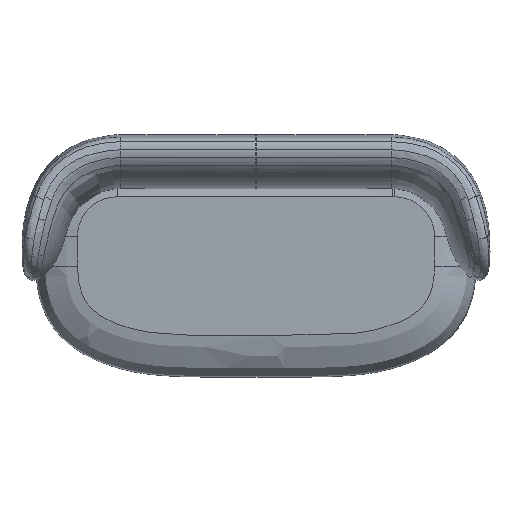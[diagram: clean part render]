
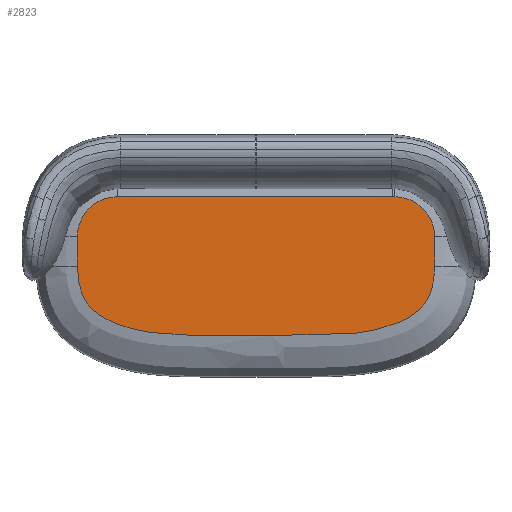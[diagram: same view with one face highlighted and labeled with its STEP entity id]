
A CAD part, top view. The second image highlights one B-rep face of the part: STEP entity #2823.
In plain terms, the highlighted planar face has unit normal (0, 0, 1).
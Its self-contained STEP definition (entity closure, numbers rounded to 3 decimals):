
#2012=B_SPLINE_CURVE_WITH_KNOTS('',3,(#215691,#215692,#215693,#215694),
 .UNSPECIFIED.,.F.,.F.,(4,4),(-11.853,0.),.UNSPECIFIED.);
#2016=B_SPLINE_CURVE_WITH_KNOTS('',3,(#215736,#215737,#215738,#215739,#215740,
#215741,#215742,#215743,#215744,#215745,#215746),.UNSPECIFIED.,.F.,.F.,
(4,1,1,1,1,1,1,1,4),(-549.779,-481.725,-412.334,
-342.943,-274.889,-206.836,-137.445,
-68.054,0.),.UNSPECIFIED.);
#2019=B_SPLINE_CURVE_WITH_KNOTS('',3,(#215766,#215767,#215768,#215769),
 .UNSPECIFIED.,.F.,.F.,(4,4),(-131.191,0.),.UNSPECIFIED.);
#2022=B_SPLINE_CURVE_WITH_KNOTS('',3,(#215830,#215831,#215832,#215833,#215834,
#215835,#215836,#215837,#215838,#215839,#215840,#215841,#215842,#215843,
#215844,#215845,#215846,#215847,#215848,#215849,#215850,#215851,#215852,
#215853,#215854,#215855,#215856,#215857,#215858,#215859,#215860,#215861,
#215862,#215863,#215864,#215865,#215866,#215867,#215868,#215869,#215870,
#215871,#215872,#215873,#215874),.UNSPECIFIED.,.F.,.F.,(4,1,1,1,1,1,1,1,
1,1,1,1,1,1,1,1,1,1,1,1,1,1,1,1,1,1,1,1,1,1,1,1,1,1,1,1,1,1,1,1,1,1,4),
(-2457.531,-2406.307,-2358.914,-2314.827,
-2273.524,-2234.508,-2197.317,-2161.54,
-2126.832,-2092.921,-2059.613,-1994.399,
-1931.033,-1870.222,-1812.435,-1755.042,
-1694.567,-1627.575,-1550.722,-1460.755,
-1354.488,-1228.765,-1103.043,-996.776,
-906.809,-829.956,-762.964,-702.489,
-645.096,-587.308,-526.498,-463.132,
-397.918,-364.61,-330.699,-295.991,
-260.214,-223.022,-184.007,-142.704,
-98.616,-51.224,0.),.UNSPECIFIED.);
#2025=B_SPLINE_CURVE_WITH_KNOTS('',3,(#215894,#215895,#215896,#215897),
 .UNSPECIFIED.,.F.,.F.,(4,4),(-131.192,0.),.UNSPECIFIED.);
#2028=B_SPLINE_CURVE_WITH_KNOTS('',3,(#215924,#215925,#215926,#215927,#215928,
#215929,#215930,#215931,#215932,#215933,#215934),.UNSPECIFIED.,.F.,.F.,
(4,1,1,1,1,1,1,1,4),(-549.777,-485.734,-417.842,
-347.118,-274.889,-202.659,-131.935,-64.044,
0.),.UNSPECIFIED.);
#2030=B_SPLINE_CURVE_WITH_KNOTS('',3,(#215939,#215940,#215941,#215942),
 .UNSPECIFIED.,.F.,.F.,(4,4),(-1214.687,0.),.UNSPECIFIED.);
#2823=ADVANCED_FACE('',(#3407),#11523,.T.);
#3407=FACE_OUTER_BOUND('',#4003,.T.);
#4003=EDGE_LOOP('',(#7698,#7699,#7700,#7701,#7702,#7703,#7704));
#7698=ORIENTED_EDGE('',*,*,#9737,.T.);
#7699=ORIENTED_EDGE('',*,*,#9755,.T.);
#7700=ORIENTED_EDGE('',*,*,#9753,.T.);
#7701=ORIENTED_EDGE('',*,*,#9750,.T.);
#7702=ORIENTED_EDGE('',*,*,#9747,.T.);
#7703=ORIENTED_EDGE('',*,*,#9744,.T.);
#7704=ORIENTED_EDGE('',*,*,#9741,.T.);
#9737=EDGE_CURVE('',#11454,#11455,#2012,.T.);
#9741=EDGE_CURVE('',#11457,#11454,#2016,.T.);
#9744=EDGE_CURVE('',#11459,#11457,#2019,.T.);
#9747=EDGE_CURVE('',#11461,#11459,#2022,.T.);
#9750=EDGE_CURVE('',#11463,#11461,#2025,.T.);
#9753=EDGE_CURVE('',#11465,#11463,#2028,.T.);
#9755=EDGE_CURVE('',#11455,#11465,#2030,.T.);
#11454=VERTEX_POINT('',#215660);
#11455=VERTEX_POINT('',#215661);
#11457=VERTEX_POINT('',#215663);
#11459=VERTEX_POINT('',#215665);
#11461=VERTEX_POINT('',#215667);
#11463=VERTEX_POINT('',#215669);
#11465=VERTEX_POINT('',#215671);
#11523=PLANE('',#11765);
#11765=AXIS2_PLACEMENT_3D('',#215657,#11869,$);
#11869=DIRECTION('',(0.,0.,1.));
#215657=CARTESIAN_POINT('',(3292.103,-550.83,340.));
#215660=CARTESIAN_POINT('',(4709.664,68.19,340.));
#215661=CARTESIAN_POINT('',(4697.812,68.19,340.));
#215663=CARTESIAN_POINT('',(4884.915,-107.06,340.));
#215665=CARTESIAN_POINT('',(4884.914,-238.251,340.));
#215667=CARTESIAN_POINT('',(3307.874,-238.251,340.));
#215669=CARTESIAN_POINT('',(3307.874,-107.06,340.));
#215671=CARTESIAN_POINT('',(3483.125,68.19,340.));
#215691=CARTESIAN_POINT('',(4709.664,68.19,340.));
#215692=CARTESIAN_POINT('',(4705.714,68.19,340.));
#215693=CARTESIAN_POINT('',(4701.763,68.19,340.));
#215694=CARTESIAN_POINT('',(4697.812,68.19,340.));
#215736=CARTESIAN_POINT('',(4884.915,-107.06,340.));
#215737=CARTESIAN_POINT('',(4884.916,-95.701,340.));
#215738=CARTESIAN_POINT('',(4882.677,-72.762,340.));
#215739=CARTESIAN_POINT('',(4872.639,-39.554,340.));
#215740=CARTESIAN_POINT('',(4856.256,-8.974,340.));
#215741=CARTESIAN_POINT('',(4834.368,17.644,340.));
#215742=CARTESIAN_POINT('',(4807.75,39.532,340.));
#215743=CARTESIAN_POINT('',(4777.17,55.915,340.));
#215744=CARTESIAN_POINT('',(4743.963,65.953,340.));
#215745=CARTESIAN_POINT('',(4721.023,68.191,340.));
#215746=CARTESIAN_POINT('',(4709.664,68.19,340.));
#215766=CARTESIAN_POINT('',(4884.914,-238.251,340.));
#215767=CARTESIAN_POINT('',(4884.914,-194.521,340.));
#215768=CARTESIAN_POINT('',(4884.915,-150.79,340.));
#215769=CARTESIAN_POINT('',(4884.915,-107.06,340.));
#215830=CARTESIAN_POINT('',(3307.874,-238.251,340.));
#215831=CARTESIAN_POINT('',(3307.874,-250.979,340.));
#215832=CARTESIAN_POINT('',(3308.792,-274.792,340.));
#215833=CARTESIAN_POINT('',(3312.758,-306.747,340.));
#215834=CARTESIAN_POINT('',(3318.691,-333.925,340.));
#215835=CARTESIAN_POINT('',(3326.104,-356.934,340.));
#215836=CARTESIAN_POINT('',(3334.662,-376.522,340.));
#215837=CARTESIAN_POINT('',(3344.218,-393.466,340.));
#215838=CARTESIAN_POINT('',(3354.805,-408.485,340.));
#215839=CARTESIAN_POINT('',(3366.591,-422.156,340.));
#215840=CARTESIAN_POINT('',(3379.777,-434.862,340.));
#215841=CARTESIAN_POINT('',(3399.276,-450.677,340.));
#215842=CARTESIAN_POINT('',(3427.788,-468.84,340.));
#215843=CARTESIAN_POINT('',(3467.821,-487.861,340.));
#215844=CARTESIAN_POINT('',(3513.106,-504.39,340.));
#215845=CARTESIAN_POINT('',(3558.484,-517.778,340.));
#215846=CARTESIAN_POINT('',(3602.519,-527.326,340.));
#215847=CARTESIAN_POINT('',(3652.016,-534.478,340.));
#215848=CARTESIAN_POINT('',(3711.246,-539.499,340.));
#215849=CARTESIAN_POINT('',(3783.539,-542.63,340.));
#215850=CARTESIAN_POINT('',(3871.431,-544.204,340.));
#215851=CARTESIAN_POINT('',(3977.309,-544.708,340.));
#215852=CARTESIAN_POINT('',(4096.394,-544.686,340.));
#215853=CARTESIAN_POINT('',(4215.483,-544.708,340.));
#215854=CARTESIAN_POINT('',(4321.36,-544.204,340.));
#215855=CARTESIAN_POINT('',(4409.249,-542.63,340.));
#215856=CARTESIAN_POINT('',(4481.544,-539.499,340.));
#215857=CARTESIAN_POINT('',(4540.772,-534.478,340.));
#215858=CARTESIAN_POINT('',(4590.272,-527.326,340.));
#215859=CARTESIAN_POINT('',(4634.309,-517.777,340.));
#215860=CARTESIAN_POINT('',(4679.682,-504.39,340.));
#215861=CARTESIAN_POINT('',(4724.972,-487.859,340.));
#215862=CARTESIAN_POINT('',(4764.998,-468.841,340.));
#215863=CARTESIAN_POINT('',(4793.516,-450.675,340.));
#215864=CARTESIAN_POINT('',(4813.011,-434.862,340.));
#215865=CARTESIAN_POINT('',(4826.201,-422.153,340.));
#215866=CARTESIAN_POINT('',(4837.982,-408.486,340.));
#215867=CARTESIAN_POINT('',(4848.572,-393.465,340.));
#215868=CARTESIAN_POINT('',(4858.127,-376.52,340.));
#215869=CARTESIAN_POINT('',(4866.685,-356.933,340.));
#215870=CARTESIAN_POINT('',(4874.099,-333.92,340.));
#215871=CARTESIAN_POINT('',(4880.031,-306.75,340.));
#215872=CARTESIAN_POINT('',(4883.997,-274.787,340.));
#215873=CARTESIAN_POINT('',(4884.915,-250.981,340.));
#215874=CARTESIAN_POINT('',(4884.914,-238.251,340.));
#215894=CARTESIAN_POINT('',(3307.874,-107.06,340.));
#215895=CARTESIAN_POINT('',(3307.874,-150.79,340.));
#215896=CARTESIAN_POINT('',(3307.874,-194.521,340.));
#215897=CARTESIAN_POINT('',(3307.874,-238.251,340.));
#215924=CARTESIAN_POINT('',(3483.125,68.19,340.));
#215925=CARTESIAN_POINT('',(3472.435,68.191,340.));
#215926=CARTESIAN_POINT('',(3450.415,66.17,340.));
#215927=CARTESIAN_POINT('',(3417.754,56.78,340.));
#215928=CARTESIAN_POINT('',(3386.347,40.509,340.));
#215929=CARTESIAN_POINT('',(3358.321,17.743,340.));
#215930=CARTESIAN_POINT('',(3335.556,-10.282,340.));
#215931=CARTESIAN_POINT('',(3319.285,-41.689,340.));
#215932=CARTESIAN_POINT('',(3309.895,-74.349,340.));
#215933=CARTESIAN_POINT('',(3307.874,-96.371,340.));
#215934=CARTESIAN_POINT('',(3307.874,-107.06,340.));
#215939=CARTESIAN_POINT('',(4697.812,68.19,340.));
#215940=CARTESIAN_POINT('',(4292.916,68.19,340.));
#215941=CARTESIAN_POINT('',(3888.02,68.19,340.));
#215942=CARTESIAN_POINT('',(3483.125,68.19,340.));
